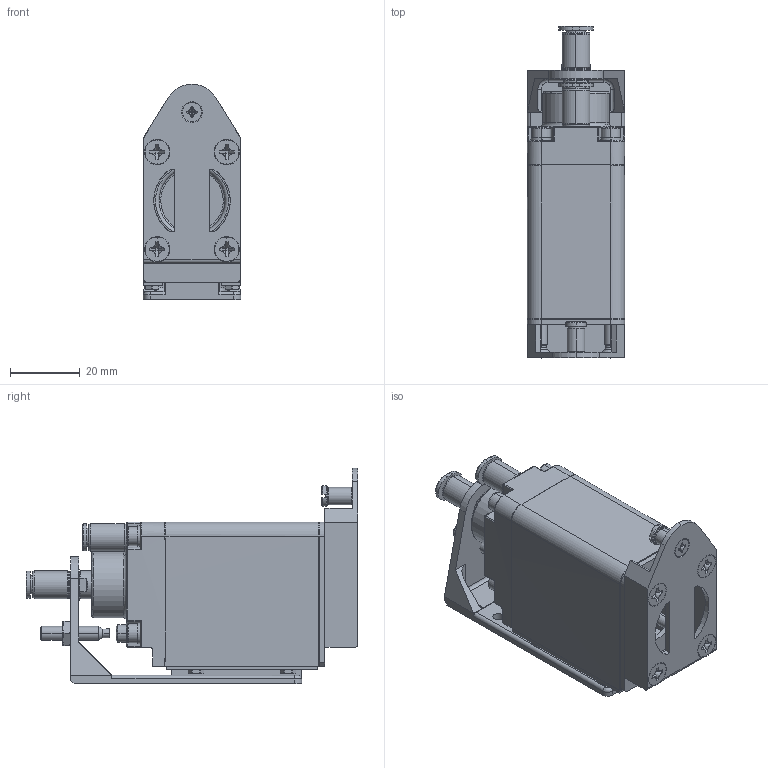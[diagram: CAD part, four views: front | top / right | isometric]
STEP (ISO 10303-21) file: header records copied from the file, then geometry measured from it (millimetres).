
FILE_DESCRIPTION (( 'STEP AP214' ), '1' );
FILE_NAME ('GT-NY10G-4.STEP', '2019-11-27T01:57:21', ( '微软用户' ), ( '微软中国' ), 'SwSTEP 2.0', 'SolidWorks 2016', '' );
FILE_SCHEMA (( 'AUTOMOTIVE_DESIGN' ));
Length unit declared in the file: millimetre
Products named in the file (1): GT-NY10G-4
Bounding box: 28 x 95.5 x 62 mm (x, y, z)
Surface area: 28913 mm2 (no closed solid volume)
Topology: 0 solids, 30 shells, 843 faces, 2152 edges, 1378 vertices
Faces by surface type: plane 369, cylinder 260, bspline 117, cone 54, torus 35, sphere 8
Entity records: 37045 total; most frequent: CARTESIAN_POINT 12172, ORIENTED_EDGE 4204, DIRECTION 3716, EDGE_CURVE 2134, AXIS2_PLACEMENT_3D 1391, VERTEX_POINT 1378, EDGE_LOOP 939, LINE 934
